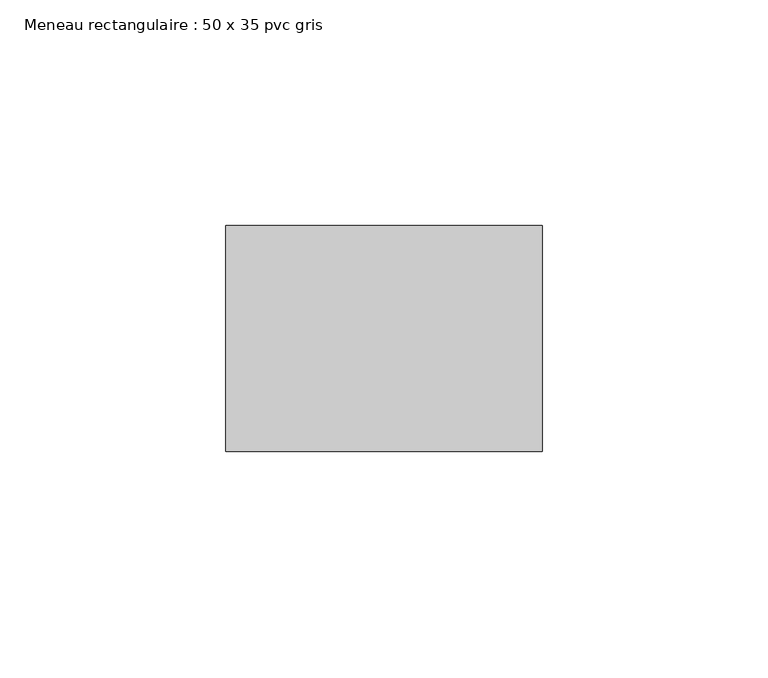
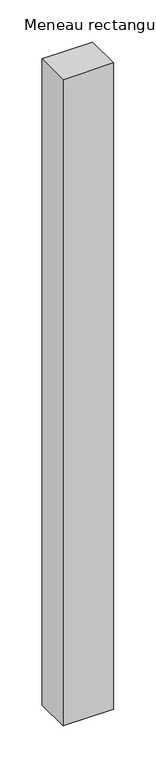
"""IFC4 building model written with IfcOpenShell, lengths in millimetres: member geometry, Meneau rectangulaire : 50 x 35 pvc gris."""

from ifc_helpers import new_model, si_unit, frame, origin, place, context, project, spatial, polyline, outline, extrude, source, transform, mapped, element, save


def meneau_rectangulaire_50_x_35_pvc_gris_a0109739(model_context):
    return source(origin(), model_context, "Body", "SweptSolid", [
        extrude(outline(polyline([(0.0, 0.0), (0.0, -50.0), (-70.0, -50.0), (-70.0, 0.0), (0.0, 0.0)])), frame((0.0, 0.0, -938.475215), z_axis=(0.0, 0.0, 1.0), x_axis=(1.0, 0.0, 0.0)), (0.0, 0.0, 1.0), 938.475215),
    ])


if __name__ == "__main__":
    model = new_model("IFC4")
    model_context = context("Model", 3, world=origin())
    ifc_project = project(units=[si_unit("LENGTHUNIT", "METRE", prefix="MILLI")], contexts=[model_context])
    site = spatial("IfcSite", under=ifc_project)
    building = spatial("IfcBuilding", under=site)
    placement = place(None, origin())
    meneau_rectangulaire_50_x_35_pvc_gris_shape = meneau_rectangulaire_50_x_35_pvc_gris_a0109739(model_context)
    element("IfcMember", 1, ObjectType="Meneau rectangulaire : 50 x 35 pvc gris", at=placement, inside=building, context=model_context, shape_type="MappedRepresentation", body=[
        mapped(meneau_rectangulaire_50_x_35_pvc_gris_shape, transform((0.0, 0.0, 0.0), x_axis=(1.0, 0.0, 0.0), y_axis=(0.0, 1.0, 0.0), z_axis=(0.0, 0.0, 1.0))),
    ])
    save(model, "model.ifc")
